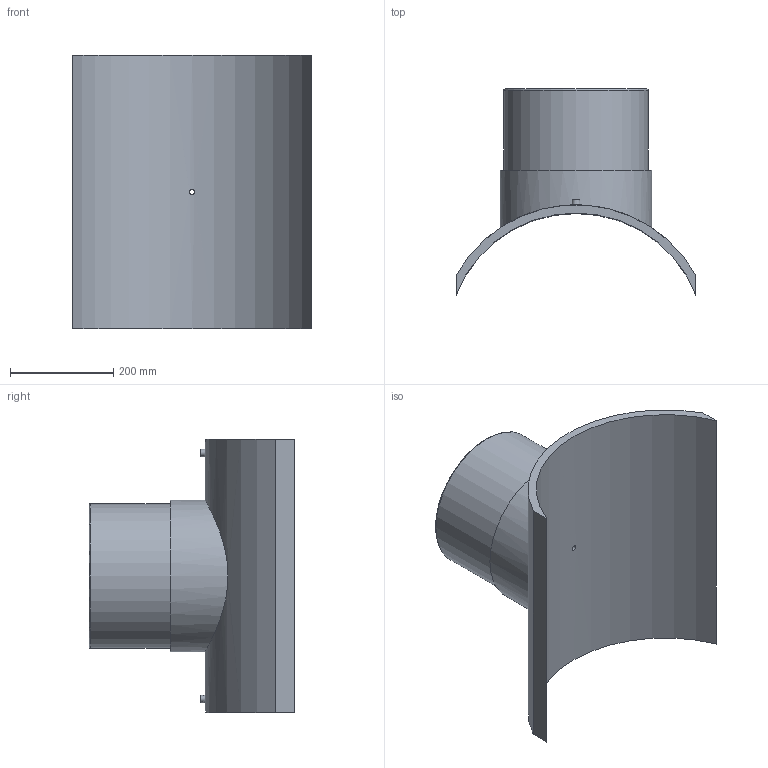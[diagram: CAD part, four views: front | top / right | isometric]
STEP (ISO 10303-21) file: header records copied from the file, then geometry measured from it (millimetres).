
FILE_DESCRIPTION(/* description */ ('PLASSON BRANCH SADDLE 500x280'),/* implementation_level */ '2;1');
FILE_NAME(/* name */ 'C:\Dropbox\KIMPROJECTS-Inventor 2019\99-16-3568-Processing\ElectroFusion Fittings\495803\stp\495803500280T.stp',/* time_stamp */ '2024-04-04T11:52:05+02:00',/* author */ ('KIM'),/* organization */ (''),/* preprocessor_version */ 'ST-DEVELOPER v17.2',/* originating_system */ 'Autodesk Inventor 2019',/* authorisation */ '');
FILE_SCHEMA (('AUTOMOTIVE_DESIGN { 1 0 10303 214 3 1 1 }'));
Length unit declared in the file: millimetre
Products named in the file (1): 495803500280T
Bounding box: 465 x 399.11 x 530 mm (x, y, z)
Volume: 10824994 mm3; surface area: 1070001.5 mm2
Topology: 1 solids, 1 shells, 29 faces, 60 edges, 43 vertices
Faces by surface type: plane 13, cylinder 12, torus 2, cone 2
Full cylindrical faces by diameter (mm): 4 x2, 9.6 x1, 10 x2, 16 x1, 224 x1, 280 x1, 294 x1
Entity records: 1094 total; most frequent: CARTESIAN_POINT 408, DIRECTION 139, ORIENTED_EDGE 120, EDGE_CURVE 60, AXIS2_PLACEMENT_3D 60, VERTEX_POINT 43, EDGE_LOOP 41, CIRCLE 30
